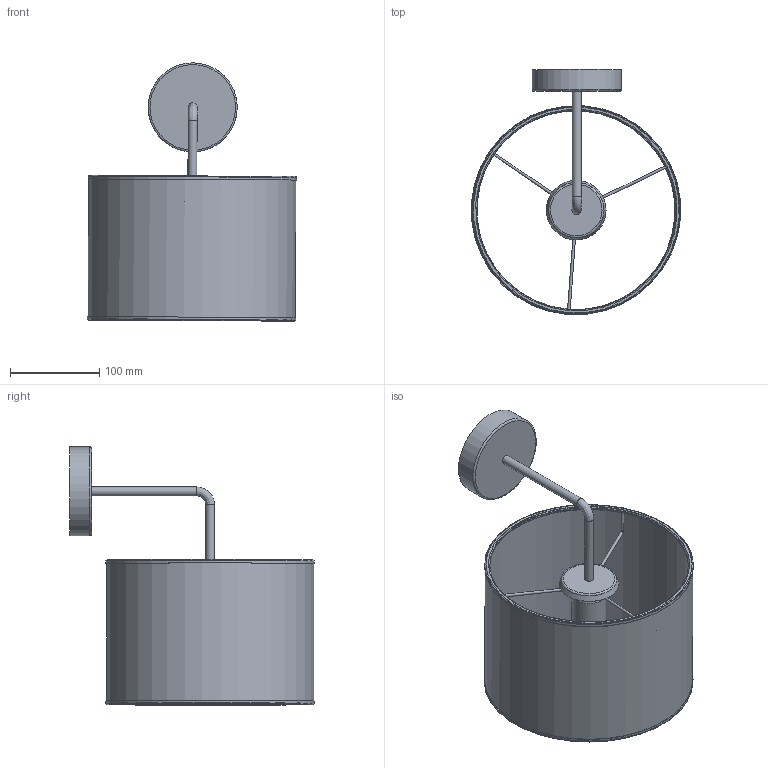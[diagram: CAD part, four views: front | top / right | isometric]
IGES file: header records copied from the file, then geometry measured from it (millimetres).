
Start section: SolidWorks IGES file using analytic representation for surfaces
Global section: file name: X:\PRODUKT\Modele 3D_WWW\_KOLEKCJE WWW\ALICE\9083\ALICE-B-9083.IGS; native system: SolidWorks 2021; preprocessor: SolidWorks 2021; author: gabriela.tworek; date: 220704.100931; units: millimetre
Bounding box: 234.68 x 274.49 x 289.91 mm (x, y, z)
Surface area: 319293.2 mm2 (no closed solid volume)
Topology: 0 solids, 0 shells, 63 faces, 157 edges, 114 vertices
Faces by surface type: revolution 43, bspline 20
